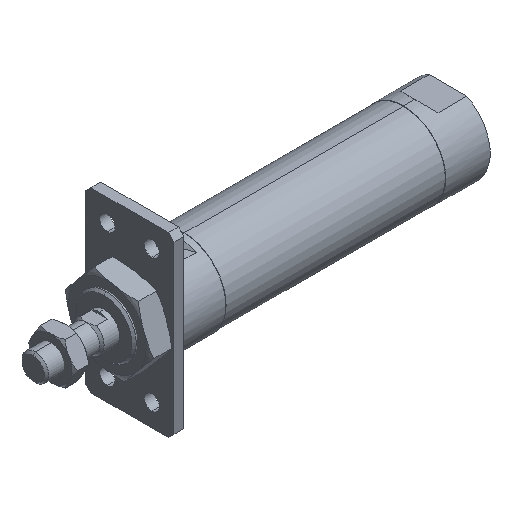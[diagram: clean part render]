
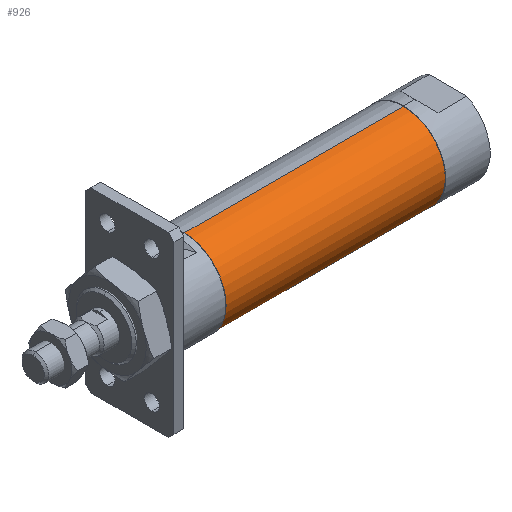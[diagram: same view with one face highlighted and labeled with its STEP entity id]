
A CAD part, isometric view. The second image highlights one B-rep face of the part: STEP entity #926.
In plain terms, the highlighted cylindrical face has radius 18.8 mm (diameter 37.6 mm), a partial arc.
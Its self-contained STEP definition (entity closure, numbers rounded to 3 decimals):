
#87 = DIRECTION ( 'NONE',  ( 0., 0., 1. ) ) ;
#107 = LINE ( 'NONE', #2483, #1058 ) ;
#243 = DIRECTION ( 'NONE',  ( -1., 0., 0. ) ) ;
#302 = VERTEX_POINT ( 'NONE', #3918 ) ;
#514 = ORIENTED_EDGE ( 'NONE', *, *, #2481, .T. ) ;
#612 = AXIS2_PLACEMENT_3D ( 'NONE', #3260, #1373, #3569 ) ;
#853 = LINE ( 'NONE', #1595, #2129 ) ;
#884 = VERTEX_POINT ( 'NONE', #3833 ) ;
#926 = ADVANCED_FACE ( 'NONE', ( #1288 ), #3962, .T. ) ;
#1023 = DIRECTION ( 'NONE',  ( -1., 0., 0. ) ) ;
#1043 = EDGE_CURVE ( 'NONE', #3058, #302, #3895, .T. ) ;
#1058 = VECTOR ( 'NONE', #1216, 1000. ) ;
#1216 = DIRECTION ( 'NONE',  ( -1., 0., 0. ) ) ;
#1288 = FACE_OUTER_BOUND ( 'NONE', #3713, .T. ) ;
#1291 = EDGE_CURVE ( 'NONE', #3058, #3372, #107, .T. ) ;
#1295 = CIRCLE ( 'NONE', #2336, 18.8 ) ;
#1373 = DIRECTION ( 'NONE',  ( -1., 0., 0. ) ) ;
#1532 = CARTESIAN_POINT ( 'NONE',  ( 68., 0., 0. ) ) ;
#1572 = CARTESIAN_POINT ( 'NONE',  ( 167., 0., -18.8 ) ) ;
#1595 = CARTESIAN_POINT ( 'NONE',  ( -1.784, 0., 18.8 ) ) ;
#1890 = DIRECTION ( 'NONE',  ( -1., 0., 0. ) ) ;
#2129 = VECTOR ( 'NONE', #1890, 1000. ) ;
#2154 = EDGE_CURVE ( 'NONE', #3372, #884, #1295, .T. ) ;
#2336 = AXIS2_PLACEMENT_3D ( 'NONE', #1532, #243, #2800 ) ;
#2481 = EDGE_CURVE ( 'NONE', #302, #884, #853, .T. ) ;
#2483 = CARTESIAN_POINT ( 'NONE',  ( -1.784, 0., -18.8 ) ) ;
#2768 = AXIS2_PLACEMENT_3D ( 'NONE', #2941, #1023, #87 ) ;
#2800 = DIRECTION ( 'NONE',  ( 0., 0., 1. ) ) ;
#2897 = ORIENTED_EDGE ( 'NONE', *, *, #1043, .T. ) ;
#2941 = CARTESIAN_POINT ( 'NONE',  ( -1.784, 0., 0. ) ) ;
#3058 = VERTEX_POINT ( 'NONE', #1572 ) ;
#3260 = CARTESIAN_POINT ( 'NONE',  ( 167., 0., 0. ) ) ;
#3314 = CARTESIAN_POINT ( 'NONE',  ( 68., 0., -18.8 ) ) ;
#3372 = VERTEX_POINT ( 'NONE', #3314 ) ;
#3569 = DIRECTION ( 'NONE',  ( 0., 0., 1. ) ) ;
#3608 = ORIENTED_EDGE ( 'NONE', *, *, #1291, .F. ) ;
#3644 = ORIENTED_EDGE ( 'NONE', *, *, #2154, .F. ) ;
#3713 = EDGE_LOOP ( 'NONE', ( #3608, #2897, #514, #3644 ) ) ;
#3833 = CARTESIAN_POINT ( 'NONE',  ( 68., 0., 18.8 ) ) ;
#3895 = CIRCLE ( 'NONE', #612, 18.8 ) ;
#3918 = CARTESIAN_POINT ( 'NONE',  ( 167., 0., 18.8 ) ) ;
#3962 = CYLINDRICAL_SURFACE ( 'NONE', #2768, 18.8 ) ;
